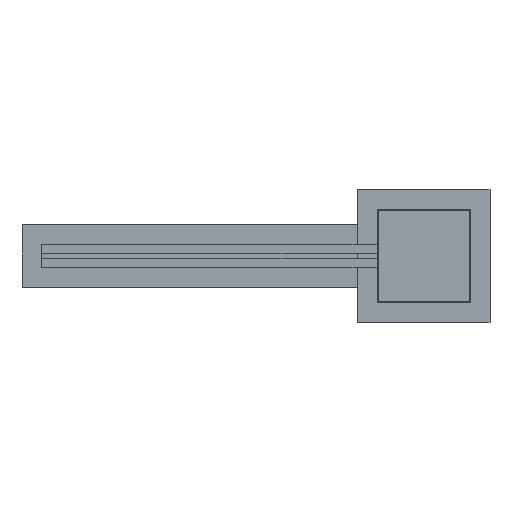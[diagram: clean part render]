
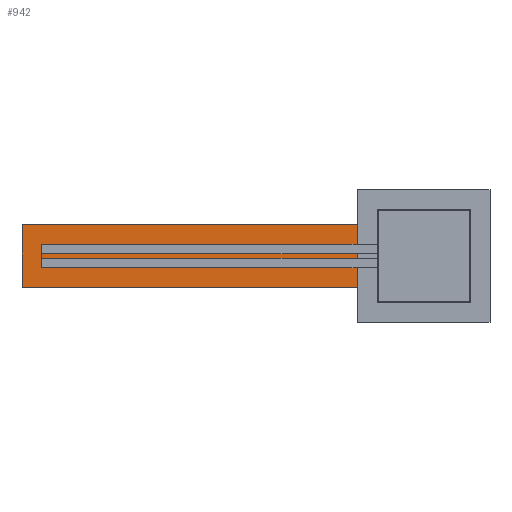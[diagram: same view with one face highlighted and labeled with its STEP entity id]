
A CAD part, top view. The second image highlights one B-rep face of the part: STEP entity #942.
In plain terms, the highlighted planar face has unit normal (0, 0, 1).
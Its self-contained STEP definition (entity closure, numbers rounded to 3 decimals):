
#42=FACE_OUTER_BOUND('',#101,.T.);
#101=EDGE_LOOP('',(#642,#643,#644,#645,#646));
#157=LINE('',#1343,#282);
#161=LINE('',#1351,#286);
#164=LINE('',#1357,#289);
#167=LINE('',#1363,#292);
#170=LINE('',#1368,#295);
#282=VECTOR('',#1090,304.8);
#286=VECTOR('',#1096,304.8);
#289=VECTOR('',#1101,304.8);
#292=VECTOR('',#1106,304.8);
#295=VECTOR('',#1111,304.8);
#407=VERTEX_POINT('',#1341);
#408=VERTEX_POINT('',#1342);
#411=VERTEX_POINT('',#1350);
#413=VERTEX_POINT('',#1356);
#415=VERTEX_POINT('',#1362);
#493=EDGE_CURVE('',#407,#408,#157,.T.);
#497=EDGE_CURVE('',#408,#411,#161,.T.);
#500=EDGE_CURVE('',#413,#407,#164,.T.);
#503=EDGE_CURVE('',#415,#413,#167,.T.);
#506=EDGE_CURVE('',#411,#415,#170,.T.);
#642=ORIENTED_EDGE('',*,*,#506,.T.);
#643=ORIENTED_EDGE('',*,*,#503,.T.);
#644=ORIENTED_EDGE('',*,*,#500,.T.);
#645=ORIENTED_EDGE('',*,*,#493,.T.);
#646=ORIENTED_EDGE('',*,*,#497,.T.);
#885=PLANE('',#1028);
#942=ADVANCED_FACE('',(#42),#885,.T.);
#1028=AXIS2_PLACEMENT_3D('',#1370,#1113,#1114);
#1090=DIRECTION('',(0.,1.,0.));
#1096=DIRECTION('',(0.,1.,0.));
#1101=DIRECTION('',(1.,0.,0.));
#1106=DIRECTION('',(0.,-1.,0.));
#1111=DIRECTION('',(-1.,0.,0.));
#1113=DIRECTION('center_axis',(0.,0.,1.));
#1114=DIRECTION('ref_axis',(-1.,0.,0.));
#1341=CARTESIAN_POINT('',(-172.5,-81.,-20.));
#1342=CARTESIAN_POINT('',(-172.5,31.,-20.));
#1343=CARTESIAN_POINT('',(-172.5,-81.,-20.));
#1350=CARTESIAN_POINT('',(-172.5,81.,-20.));
#1351=CARTESIAN_POINT('',(-172.5,31.,-20.));
#1356=CARTESIAN_POINT('',(-1050.,-81.,-20.));
#1357=CARTESIAN_POINT('',(-1050.,-81.,-20.));
#1362=CARTESIAN_POINT('',(-1050.,81.,-20.));
#1363=CARTESIAN_POINT('',(-1050.,81.,-20.));
#1368=CARTESIAN_POINT('',(-172.5,81.,-20.));
#1370=CARTESIAN_POINT('Origin',(-1050.,81.,-20.));
